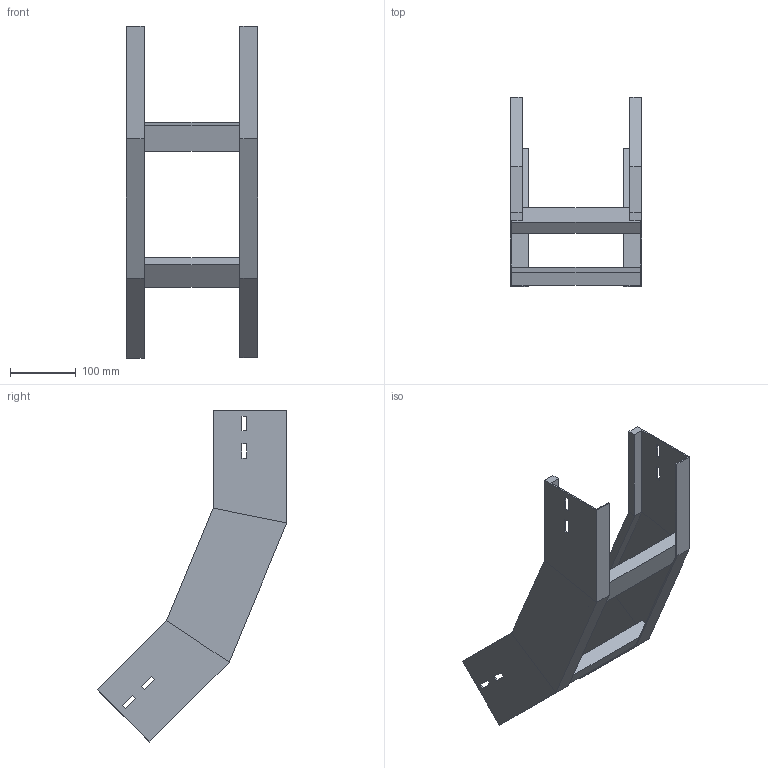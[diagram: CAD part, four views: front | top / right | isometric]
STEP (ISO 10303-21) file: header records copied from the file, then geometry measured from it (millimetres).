
FILE_DESCRIPTION (( 'STEP AP214' ), '1' );
FILE_NAME ('A2X31B3J200XX.step', '2025-03-20T10:06:19', ( '' ), ( '' ), 'SwSTEP 2.0', 'SolidWorks 2023', '' );
FILE_SCHEMA (( 'AUTOMOTIVE_DESIGN' ));
Length unit declared in the file: millimetre
Products named in the file (3): TRAVERSINO_200; A2X31B3J200XX; LONGH.SALITA_45°_H112.5_R300
Assembly tree (4 placements, depth 2):
  A2X31B3J200XX
    LONGH.SALITA_45°_H112.5_R300  x2
    TRAVERSINO_200  x2
Bounding box: 200 x 289.26 x 506.29 mm (x, y, z)
Volume: 798600.5 mm3; surface area: 382155.8 mm2
Topology: 4 solids, 4 shells, 96 faces, 232 edges, 144 vertices
Faces by surface type: plane 96
Entity records: 1472 total; most frequent: CARTESIAN_POINT 243, ORIENTED_EDGE 232, DIRECTION 226, EDGE_CURVE 116, LINE 116, VECTOR 116, VERTEX_POINT 72, EDGE_LOOP 56
